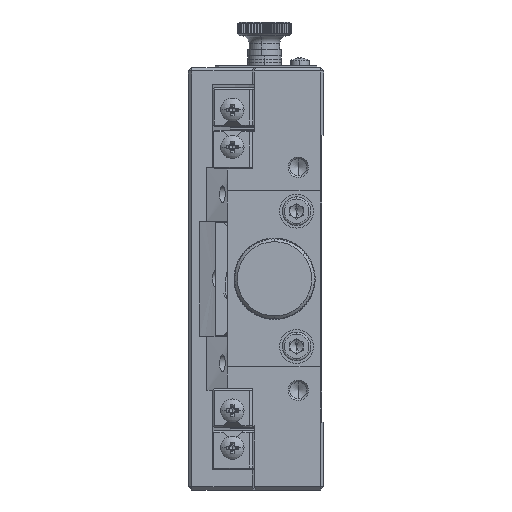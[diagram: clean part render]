
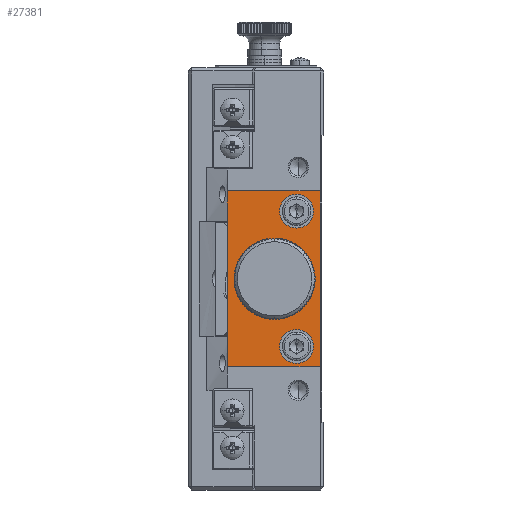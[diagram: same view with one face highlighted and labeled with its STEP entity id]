
A CAD part, left-side view. The second image highlights one B-rep face of the part: STEP entity #27381.
In plain terms, the highlighted planar face has unit normal (-1, 0, 0) as drawn and (0, 0, 1) by its records, which use the part's own axes.
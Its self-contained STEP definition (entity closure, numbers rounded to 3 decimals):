
#2654 = AXIS2_PLACEMENT_3D ( 'NONE', #46441, #9100, #52696 ) ;
#8015 = CARTESIAN_POINT ( 'NONE',  ( 0., 14., 9. ) ) ;
#9100 = DIRECTION ( 'NONE',  ( 0., 0., 1. ) ) ;
#9257 = DIRECTION ( 'NONE',  ( 0., -1., 0. ) ) ;
#9765 = AXIS2_PLACEMENT_3D ( 'NONE', #48848, #11560, #55138 ) ;
#10379 = EDGE_LOOP ( 'NONE', ( #70497, #33501 ) ) ;
#10486 = CARTESIAN_POINT ( 'NONE',  ( 26., 28., 9. ) ) ;
#11396 = AXIS2_PLACEMENT_3D ( 'NONE', #54464, #17122, #60714 ) ;
#11560 = DIRECTION ( 'NONE',  ( 0., 0., 1. ) ) ;
#11751 = EDGE_CURVE ( 'NONE', #26684, #44515, #29189, .T. ) ;
#14287 = DIRECTION ( 'NONE',  ( 1., 0., 0. ) ) ;
#14846 = FACE_BOUND ( 'NONE', #57848, .T. ) ;
#15281 = EDGE_CURVE ( 'NONE', #59506, #21167, #25050, .T. ) ;
#16682 = EDGE_CURVE ( 'NONE', #54332, #35660, #69748, .T. ) ;
#16710 = DIRECTION ( 'NONE',  ( 0., 1., 0. ) ) ;
#16788 = FACE_BOUND ( 'NONE', #66783, .T. ) ;
#16915 = CARTESIAN_POINT ( 'NONE',  ( 0., 14., 9. ) ) ;
#17122 = DIRECTION ( 'NONE',  ( 0., 0., 1. ) ) ;
#17840 = CARTESIAN_POINT ( 'NONE',  ( 0., 0.5, 9. ) ) ;
#19320 = CARTESIAN_POINT ( 'NONE',  ( 11., 14., 9. ) ) ;
#20454 = CIRCLE ( 'NONE', #9765, 5. ) ;
#21167 = VERTEX_POINT ( 'NONE', #10486 ) ;
#22954 = AXIS2_PLACEMENT_3D ( 'NONE', #61626, #74150, #36886 ) ;
#23084 = VECTOR ( 'NONE', #16710, 1000. ) ;
#23182 = DIRECTION ( 'NONE',  ( 1., 0., 0. ) ) ;
#24138 = ORIENTED_EDGE ( 'NONE', *, *, #11751, .F. ) ;
#25050 = LINE ( 'NONE', #41789, #23084 ) ;
#25620 = CARTESIAN_POINT ( 'NONE',  ( -15., 7.5, 9. ) ) ;
#26015 = CIRCLE ( 'NONE', #57984, 5. ) ;
#26129 = LINE ( 'NONE', #63174, #73871 ) ;
#26684 = VERTEX_POINT ( 'NONE', #78246 ) ;
#27381 = ADVANCED_FACE ( 'NONE', ( #14846, #31368, #16788, #79126 ), #42854, .F. ) ;
#29189 = CIRCLE ( 'NONE', #11396, 5. ) ;
#30115 = CIRCLE ( 'NONE', #2654, 5. ) ;
#31368 = FACE_BOUND ( 'NONE', #10379, .T. ) ;
#33152 = CARTESIAN_POINT ( 'NONE',  ( -26., 0.5, 9. ) ) ;
#33501 = ORIENTED_EDGE ( 'NONE', *, *, #76123, .F. ) ;
#34967 = DIRECTION ( 'NONE',  ( 0., 0., 1. ) ) ;
#35070 = LINE ( 'NONE', #17840, #80778 ) ;
#35660 = VERTEX_POINT ( 'NONE', #33152 ) ;
#36642 = VECTOR ( 'NONE', #9257, 1000. ) ;
#36886 = DIRECTION ( 'NONE',  ( -1., 0., 0. ) ) ;
#37186 = EDGE_CURVE ( 'NONE', #21167, #54332, #26129, .T. ) ;
#40346 = CARTESIAN_POINT ( 'NONE',  ( -26., 0., 9. ) ) ;
#41146 = CARTESIAN_POINT ( 'NONE',  ( -11., 14., 9. ) ) ;
#41789 = CARTESIAN_POINT ( 'NONE',  ( 26., 0., 9. ) ) ;
#42236 = CARTESIAN_POINT ( 'NONE',  ( 15., 7.5, 9. ) ) ;
#42854 = PLANE ( 'NONE',  #22954 ) ;
#44515 = VERTEX_POINT ( 'NONE', #25620 ) ;
#44683 = DIRECTION ( 'NONE',  ( -1., 0., 0. ) ) ;
#46441 = CARTESIAN_POINT ( 'NONE',  ( -20., 7.5, 9. ) ) ;
#47045 = ORIENTED_EDGE ( 'NONE', *, *, #15281, .T. ) ;
#47345 = AXIS2_PLACEMENT_3D ( 'NONE', #16915, #60510, #23182 ) ;
#48848 = CARTESIAN_POINT ( 'NONE',  ( 20., 7.5, 9. ) ) ;
#50548 = ORIENTED_EDGE ( 'NONE', *, *, #54492, .F. ) ;
#50586 = CIRCLE ( 'NONE', #62599, 11. ) ;
#51613 = DIRECTION ( 'NONE',  ( 0., 0., 1. ) ) ;
#52696 = DIRECTION ( 'NONE',  ( 1., 0., 0. ) ) ;
#54122 = EDGE_CURVE ( 'NONE', #35660, #59506, #35070, .T. ) ;
#54301 = ORIENTED_EDGE ( 'NONE', *, *, #54609, .F. ) ;
#54332 = VERTEX_POINT ( 'NONE', #69047 ) ;
#54358 = EDGE_LOOP ( 'NONE', ( #71403, #57389, #47045, #57469 ) ) ;
#54464 = CARTESIAN_POINT ( 'NONE',  ( -20., 7.5, 9. ) ) ;
#54492 = EDGE_CURVE ( 'NONE', #79726, #76759, #50586, .T. ) ;
#54609 = EDGE_CURVE ( 'NONE', #44515, #26684, #30115, .T. ) ;
#55138 = DIRECTION ( 'NONE',  ( 1., 0., 0. ) ) ;
#55774 = VERTEX_POINT ( 'NONE', #69104 ) ;
#57389 = ORIENTED_EDGE ( 'NONE', *, *, #54122, .T. ) ;
#57469 = ORIENTED_EDGE ( 'NONE', *, *, #37186, .T. ) ;
#57848 = EDGE_LOOP ( 'NONE', ( #54301, #24138 ) ) ;
#57984 = AXIS2_PLACEMENT_3D ( 'NONE', #72264, #34967, #78508 ) ;
#59506 = VERTEX_POINT ( 'NONE', #71884 ) ;
#60510 = DIRECTION ( 'NONE',  ( 0., 0., 1. ) ) ;
#60714 = DIRECTION ( 'NONE',  ( 1., 0., 0. ) ) ;
#61626 = CARTESIAN_POINT ( 'NONE',  ( 0., 0., 9. ) ) ;
#62599 = AXIS2_PLACEMENT_3D ( 'NONE', #8015, #51613, #14287 ) ;
#63174 = CARTESIAN_POINT ( 'NONE',  ( -26., 28., 9. ) ) ;
#64310 = CIRCLE ( 'NONE', #47345, 11. ) ;
#64894 = EDGE_CURVE ( 'NONE', #76759, #79726, #64310, .T. ) ;
#65657 = VERTEX_POINT ( 'NONE', #42236 ) ;
#66783 = EDGE_LOOP ( 'NONE', ( #50548, #70452 ) ) ;
#67696 = DIRECTION ( 'NONE',  ( 1., 0., 0. ) ) ;
#69047 = CARTESIAN_POINT ( 'NONE',  ( -26., 28., 9. ) ) ;
#69104 = CARTESIAN_POINT ( 'NONE',  ( 25., 7.5, 9. ) ) ;
#69748 = LINE ( 'NONE', #40346, #36642 ) ;
#70452 = ORIENTED_EDGE ( 'NONE', *, *, #64894, .F. ) ;
#70497 = ORIENTED_EDGE ( 'NONE', *, *, #71117, .F. ) ;
#71117 = EDGE_CURVE ( 'NONE', #55774, #65657, #20454, .T. ) ;
#71403 = ORIENTED_EDGE ( 'NONE', *, *, #16682, .T. ) ;
#71884 = CARTESIAN_POINT ( 'NONE',  ( 26., 0.5, 9. ) ) ;
#72264 = CARTESIAN_POINT ( 'NONE',  ( 20., 7.5, 9. ) ) ;
#73871 = VECTOR ( 'NONE', #44683, 1000. ) ;
#74150 = DIRECTION ( 'NONE',  ( 0., 0., -1. ) ) ;
#76123 = EDGE_CURVE ( 'NONE', #65657, #55774, #26015, .T. ) ;
#76759 = VERTEX_POINT ( 'NONE', #41146 ) ;
#78246 = CARTESIAN_POINT ( 'NONE',  ( -25., 7.5, 9. ) ) ;
#78508 = DIRECTION ( 'NONE',  ( 1., 0., 0. ) ) ;
#79126 = FACE_OUTER_BOUND ( 'NONE', #54358, .T. ) ;
#79726 = VERTEX_POINT ( 'NONE', #19320 ) ;
#80778 = VECTOR ( 'NONE', #67696, 1000. ) ;
